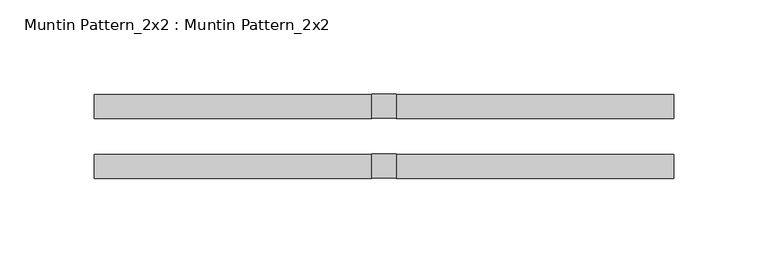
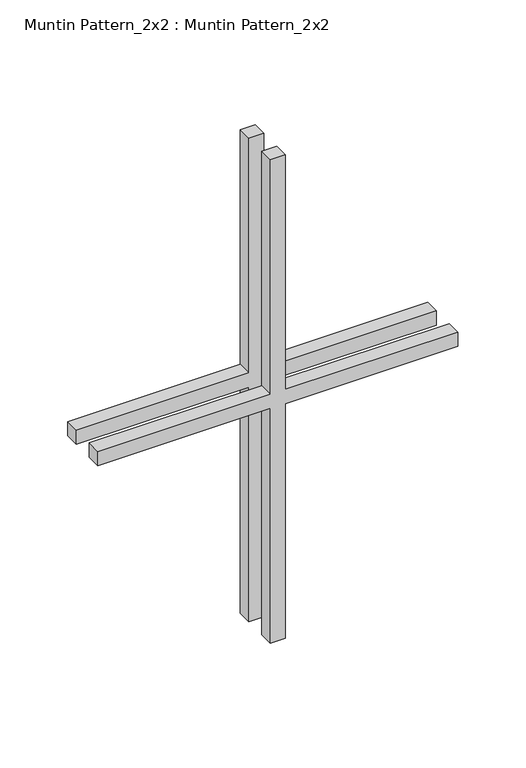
"""IFC4 building model written with IfcOpenShell, lengths in millimetres: proxy geometry, Muntin Pattern_2x2 : Muntin Pattern_2x2."""

from ifc_helpers import new_model, si_unit, frame, origin, place, context, project, spatial, polyline, outline, extrude, source, transform, mapped, element, save


def muntin_pattern_2x2_muntin_pattern_2x2_76bf3586(model_context):
    return source(origin(), model_context, "Body", "SweptSolid", [
        extrude(outline(polyline([(223.8375, -6.35), (223.8375, -153.19375), (211.1375, -153.19375), (211.1375, -6.35), (0.0, -6.35), (0.0, 6.35), (211.1375, 6.35), (211.1375, 153.19375), (223.8375, 153.19375), (223.8375, 6.35), (434.975, 6.35), (434.975, -6.35), (223.8375, -6.35)])), frame((0.0, -22.225, 0.0), z_axis=(0.0, 1.0, 0.0), x_axis=(0.0, 0.0, 1.0)), (0.0, 0.0, 1.0), 12.7),
        extrude(outline(polyline([(223.8375, -6.35), (223.8375, -153.19375), (211.1375, -153.19375), (211.1375, -6.35), (0.0, -6.35), (0.0, 6.35), (211.1375, 6.35), (211.1375, 153.19375), (223.8375, 153.19375), (223.8375, 6.35), (434.975, 6.35), (434.975, -6.35), (223.8375, -6.35)])), frame((0.0, 9.525, 0.0), z_axis=(0.0, 1.0, 0.0), x_axis=(0.0, 0.0, 1.0)), (0.0, 0.0, 1.0), 12.7),
    ])


if __name__ == "__main__":
    model = new_model("IFC4")
    model_context = context("Model", 3, world=origin())
    ifc_project = project(units=[si_unit("LENGTHUNIT", "METRE", prefix="MILLI")], contexts=[model_context])
    site = spatial("IfcSite", under=ifc_project)
    building = spatial("IfcBuilding", under=site)
    placement = place(None, origin())
    muntin_pattern_2x2_muntin_pattern_2x2_shape = muntin_pattern_2x2_muntin_pattern_2x2_76bf3586(model_context)
    element("IfcBuildingElementProxy", 1, Name="Muntin Pattern_2x2 : Muntin Pattern_2x2", ObjectType="Muntin Pattern_2x2 : Muntin Pattern_2x2", at=placement, inside=building, context=model_context, shape_type="MappedRepresentation", body=[
        mapped(muntin_pattern_2x2_muntin_pattern_2x2_shape, transform((0.0, 0.0, 0.0), x_axis=(1.0, 0.0, 0.0), y_axis=(0.0, 1.0, 0.0), z_axis=(0.0, 0.0, 1.0))),
    ])
    save(model, "model.ifc")
